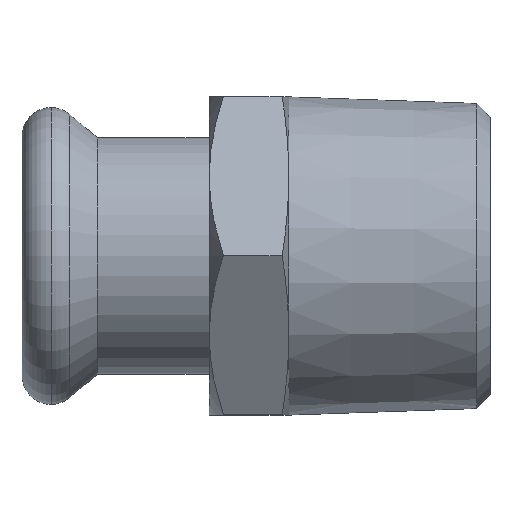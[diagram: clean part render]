
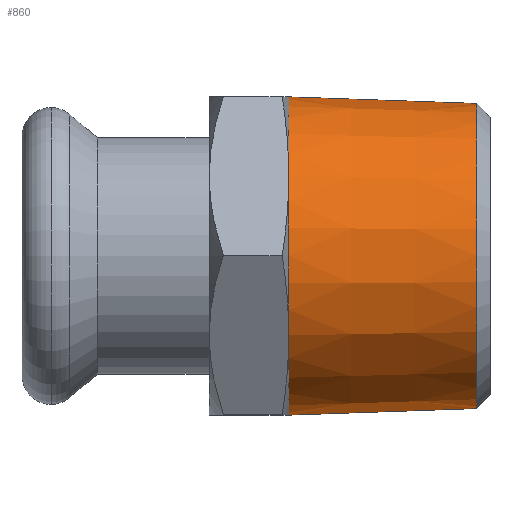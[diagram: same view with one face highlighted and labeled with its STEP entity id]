
A CAD part, top view. The second image highlights one B-rep face of the part: STEP entity #860.
In plain terms, the highlighted conical face has half-angle 1.998 degrees and reference radius 17 mm.
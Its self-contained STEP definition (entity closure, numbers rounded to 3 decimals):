
#370=CARTESIAN_POINT('',(-73.071,-319.306,
0.));
#380=DIRECTION('',(-1.,0.,0.));
#390=DIRECTION('',(0.,-1.,0.));
#400=AXIS2_PLACEMENT_3D('',#370,#380,#390);
#410=CONICAL_SURFACE('',#400,17.,0.035);
#420=CARTESIAN_POINT('',(-73.071,-336.306,
0.));
#430=DIRECTION('',(-0.999,-0.035,
0.));
#440=VECTOR('',#430,487.63);
#450=LINE('',#420,#440);
#460=CARTESIAN_POINT('',(-52.97,-335.605,
0.));
#470=VERTEX_POINT('',#460);
#480=CARTESIAN_POINT('',(-73.071,-336.306,
0.));
#490=VERTEX_POINT('',#480);
#500=EDGE_CURVE('',#470,#490,#450,.T.);
#510=ORIENTED_EDGE('',*,*,#500,.F.);
#520=CARTESIAN_POINT('',(-73.071,-319.306,
0.));
#530=DIRECTION('',(-1.,0.,0.));
#540=DIRECTION('',(0.,-1.,0.));
#550=AXIS2_PLACEMENT_3D('',#520,#530,#540);
#560=CIRCLE('',#550,17.);
#570=CARTESIAN_POINT('',(-73.071,-327.806,14.722)
);
#580=VERTEX_POINT('',#570);
#590=EDGE_CURVE('',#490,#580,#560,.T.);
#600=ORIENTED_EDGE('',*,*,#590,.F.);
#610=CARTESIAN_POINT('',(-73.071,-310.806,14.722)
);
#620=VERTEX_POINT('',#610);
#630=EDGE_CURVE('',#580,#620,#560,.T.);
#640=ORIENTED_EDGE('',*,*,#630,.F.);
#650=CARTESIAN_POINT('',(-73.071,-302.306,
0.));
#660=VERTEX_POINT('',#650);
#670=EDGE_CURVE('',#620,#660,#560,.T.);
#680=ORIENTED_EDGE('',*,*,#670,.F.);
#690=CARTESIAN_POINT('',(-73.071,-302.306,
0.));
#700=DIRECTION('',(-0.999,0.035,
0.));
#710=VECTOR('',#700,487.63);
#720=LINE('',#690,#710);
#730=CARTESIAN_POINT('',(-52.97,-303.007,
0.));
#740=VERTEX_POINT('',#730);
#750=EDGE_CURVE('',#740,#660,#720,.T.);
#760=ORIENTED_EDGE('',*,*,#750,.T.);
#770=CARTESIAN_POINT('',(-52.97,-319.306,
0.));
#780=DIRECTION('',(-1.,0.,0.));
#790=DIRECTION('',(0.,-1.,0.));
#800=AXIS2_PLACEMENT_3D('',#770,#780,#790);
#810=CIRCLE('',#800,16.299);
#820=EDGE_CURVE('',#470,#740,#810,.T.);
#830=ORIENTED_EDGE('',*,*,#820,.T.);
#840=EDGE_LOOP('',(#830,#760,#680,#640,#600,#510));
#850=FACE_OUTER_BOUND('',#840,.T.);
#860=ADVANCED_FACE('',(#850),#410,.T.);
